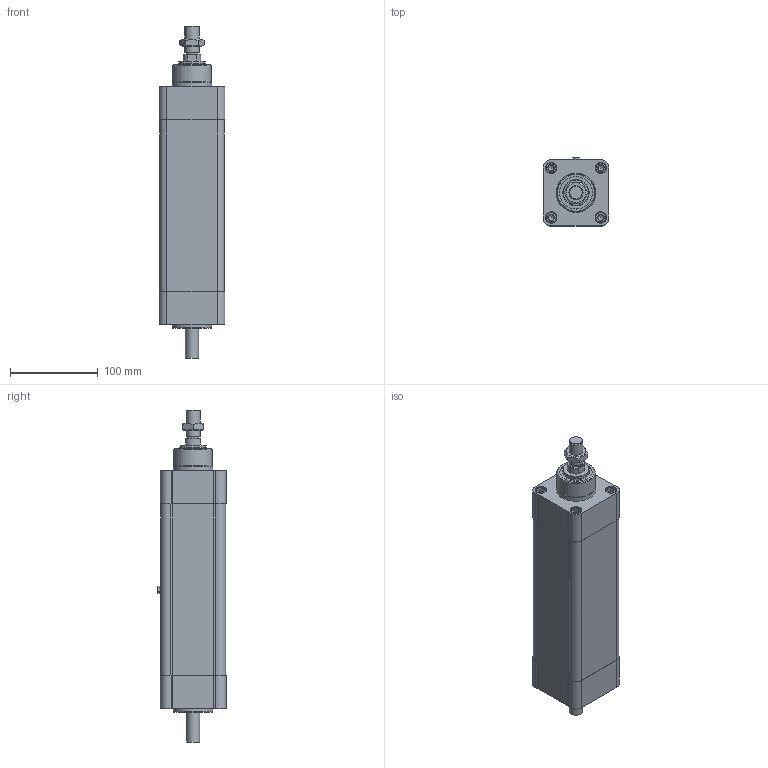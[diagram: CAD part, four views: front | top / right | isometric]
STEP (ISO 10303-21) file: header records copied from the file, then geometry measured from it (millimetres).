
FILE_DESCRIPTION(/* description */ ('STEP AP203'),/* implementation_level */ '2;1');
FILE_NAME(/* name */ 'PNCE 63 BS 2510 100 S(0)',/* time_stamp */ '2025-01-24T08:20:08+01:00',/* author */ ('License CC BY-ND 4.0'),/* organization */ ('CADENAS'),/* preprocessor_version */ 'ST-DEVELOPER v19.3',/* originating_system */ 'PARTsolutions',/* authorisation */ ' ');
FILE_SCHEMA (('CONFIG_CONTROL_DESIGN'));
Length unit declared in the file: millimetre
Products named in the file (6): PNCE 63 BS 2510 100 S(0); PNCE 63_drive cap; PNCE 63 100 S(0)_cylinder profil; PNCE 63_front cap; PNCE 63 100 S 0_piston rod; PNCE 63_nut
Assembly tree (5 placements, depth 2):
  PNCE 63 BS 2510 100 S(0)
    PNCE 63_drive cap
    PNCE 63 100 S(0)_cylinder profil
    PNCE 63_front cap
    PNCE 63 100 S 0_piston rod
    PNCE 63_nut
Bounding box: 74.97 x 77.5 x 378 mm (x, y, z)
Volume: 1295416.3 mm3; surface area: 232407.9 mm2
Topology: 5 solids, 5 shells, 256 faces, 576 edges, 380 vertices
Faces by surface type: plane 136, cylinder 90, cone 30
Full cylindrical faces by diameter (mm): 5.3 x1, 6.647 x8, 6.7 x4, 8 x8, 8.566 x1, 8.7 x4, 12 x8, 13 x8, 14.2 x1, 14.376 x1, 15 x1, 16 x1, 29.8 x1, 30 x2, 34 x1, 37 x1, 44 x1, 45 x2, 57 x2, 58 x2
Entity records: 8222 total; most frequent: DIRECTION 1168, CARTESIAN_POINT 1165, ORIENTED_EDGE 920, AXIS2_PLACEMENT_3D 462, EDGE_CURVE 460, FACE_BOUND 415, EDGE_LOOP 406, VERTEX_POINT 359
